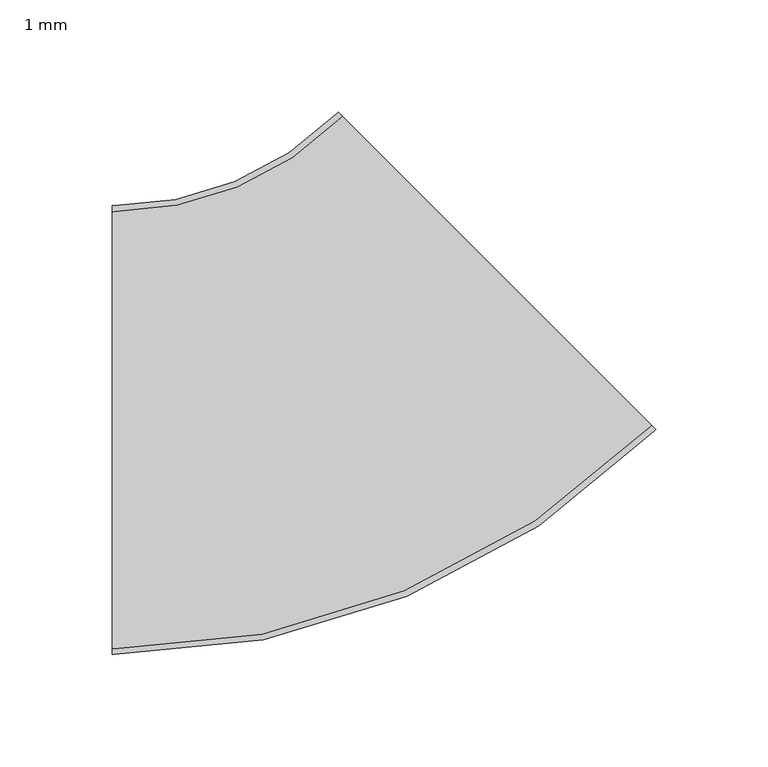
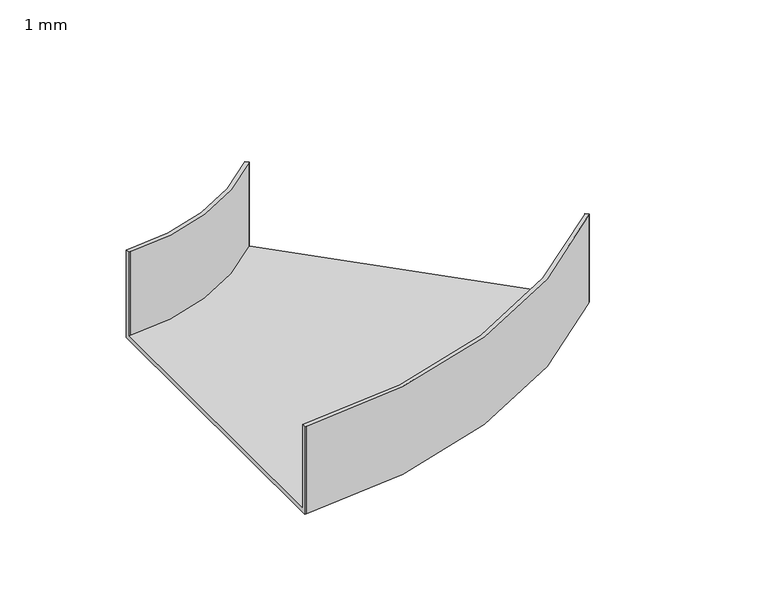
"""IFC4 building model written with IfcOpenShell, lengths in millimetres: cable carrier fitting geometry, BAKS_Kolano_koryta E90 (R140) : 1 mm."""

from ifc_helpers import new_model, si_unit, frame, origin, place, context, project, spatial, polyline, circle_curve, source, transform, mapped, element, save
from ifc_brep_helpers import plane_surface, cylinder_surface, revolved_surface, advanced_brep


def cable_carrier_fitting_1_mm_e192c5dd(model_context):
    return source(origin(), model_context, "Body", "AdvancedBrep", [
        advanced_brep(
        [(-100.411255, -100.0, -30.0), (-100.411255, -100.0, 30.0), (-100.411255, -97.46, 30.0), (-100.411255, -97.46, -27.46), (-100.411255, 97.46, -27.46), (-100.411255, 97.46, 30.0), (-100.411255, 100.0, 30.0), (-100.411255, 100.0, -30.0), (141.7121574, 0.2908012, -30.0), (0.2908012, 141.7121574, -30.0), (0.2908012, 141.7121574, 30.0), (2.0868524, 139.9161062, 30.0), (2.0868524, 139.9161062, -27.46), (139.9161062, 2.0868524, -27.46), (139.9161062, 2.0868524, 30.0), (141.7121574, 0.2908012, 30.0), (-99.411255, -100.0, -30.0), (-99.411255, -100.0, 30.0), (141.0050506, -0.4163056, 30.0), (139.2089994, 1.3797456, 30.0), (-99.411255, -97.46, 30.0), (-99.411255, -97.46, -27.46), (139.2089994, 1.3797456, -27.46), (1.3797456, 139.2089994, -27.46), (-99.411255, 97.46, -27.46), (-99.411255, 97.46, 30.0), (1.3797456, 139.2089994, 30.0), (-0.4163056, 141.0050506, 30.0), (-99.411255, 100.0, 30.0), (-99.411255, 100.0, -30.0), (-0.4163056, 141.0050506, -30.0), (141.0050506, -0.4163056, -30.0)],
        [
            (0, 1),
            (1, 2),
            (2, 3),
            (3, 4),
            (4, 5),
            (5, 6),
            (6, 7),
            (7, 0),
            (8, 9),
            (9, 10),
            (10, 11),
            (11, 12),
            (12, 13),
            (13, 14),
            (14, 15),
            (15, 8),
            (0, 16),
            (16, 17),
            (17, 1),
            (17, 18, circle_curve(frame((-99.411255, 240.0, 30.0), z_axis=(0.0, 0.0, 1.0), x_axis=(0.0, -1.0, 0.0)), 340.0)),
            (18, 15),
            (14, 19),
            (19, 20, circle_curve(frame((-99.411255, 240.0, 30.0), z_axis=(0.0, 0.0, -1.0), x_axis=(0.0, -1.0, 0.0)), 337.46)),
            (20, 2),
            (20, 21),
            (21, 3),
            (21, 22, circle_curve(frame((-99.411255, 240.0, -27.46), z_axis=(0.0, 0.0, 1.0), x_axis=(0.0, -1.0, 0.0)), 337.46)),
            (22, 13),
            (12, 23),
            (23, 24, circle_curve(frame((-99.411255, 240.0, -27.46), z_axis=(0.0, 0.0, -1.0), x_axis=(0.0, -1.0, 0.0)), 142.54)),
            (24, 4),
            (24, 25),
            (25, 5),
            (25, 26, circle_curve(frame((-99.411255, 240.0, 30.0), z_axis=(0.0, 0.0, 1.0), x_axis=(0.0, -1.0, 0.0)), 142.54)),
            (26, 11),
            (10, 27),
            (27, 28, circle_curve(frame((-99.411255, 240.0, 30.0), z_axis=(0.0, 0.0, -1.0), x_axis=(0.0, -1.0, 0.0)), 140.0)),
            (28, 6),
            (28, 29),
            (29, 7),
            (29, 30, circle_curve(frame((-99.411255, 240.0, -30.0), z_axis=(0.0, 0.0, 1.0), x_axis=(0.0, -1.0, 0.0)), 140.0)),
            (30, 9),
            (8, 31),
            (31, 16, circle_curve(frame((-99.411255, 240.0, -30.0), z_axis=(0.0, 0.0, -1.0), x_axis=(0.0, -1.0, 0.0)), 340.0)),
            (31, 18),
            (19, 22),
            (23, 26),
            (27, 30),
        ],
        [
            plane_surface(frame((-100.411255, 0.0, 0.0), z_axis=(-1.0, -4.906741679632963e-12, 0.0), x_axis=(0.0, 0.0, 1.0))),
            plane_surface(frame((71.0014793, 71.0014793, 0.0), z_axis=(0.7071067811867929, 0.7071067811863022, 0.0), x_axis=(0.0, 0.0, 1.0))),
            plane_surface(frame((-100.411255, -100.0, -30.0), z_axis=(4.906741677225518e-12, -1.0, 0.0), x_axis=(1.0, 4.906741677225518e-12, 0.0))),
            plane_surface(frame((-100.411255, -100.0, 30.0), z_axis=(0.0, 0.0, 1.0), x_axis=(1.0, 4.906741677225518e-12, 0.0))),
            plane_surface(frame((-100.411255, -97.46, 30.0), z_axis=(-4.889821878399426e-12, 1.0, 0.0), x_axis=(1.0, 4.889821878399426e-12, 0.0))),
            plane_surface(frame((-100.411255, -97.46, -27.46), z_axis=(0.0, 0.0, 1.0), x_axis=(1.0, 4.9067416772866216e-12, 0.0))),
            plane_surface(frame((-100.411255, 97.46, -27.46), z_axis=(4.906741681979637e-12, -1.0, 0.0), x_axis=(1.0, 4.906741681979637e-12, 0.0))),
            plane_surface(frame((-100.411255, 97.46, 30.0), z_axis=(0.0, 0.0, 1.0), x_axis=(1.0, 4.906741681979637e-12, 0.0))),
            plane_surface(frame((-100.411255, 100.0, 30.0), z_axis=(-4.90674168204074e-12, 1.0, 0.0), x_axis=(1.0, 4.90674168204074e-12, 0.0))),
            plane_surface(frame((-100.411255, 100.0, -30.0), z_axis=(0.0, 0.0, -1.0), x_axis=(1.0, 4.90674168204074e-12, 0.0))),
            cylinder_surface(frame((-99.411255, 240.0, 0.0), z_axis=(0.0, 0.0, 1.0), x_axis=(0.0, -1.0, 0.0)), 340.0),
            revolved_surface(polyline([(-99.411255, -97.45999999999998, 30.0), (-99.411255, -97.45999999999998, -27.46)]), (-99.411255, 240.0, 0.0), (0.0, 0.0, 1.0)),
            cylinder_surface(frame((-99.411255, 240.0, 0.0), z_axis=(0.0, 0.0, 1.0), x_axis=(0.0, -1.0, 0.0)), 142.54),
            revolved_surface(polyline([(-99.411255, 100.0, 30.0), (-99.411255, 100.0, -30.0)]), (-99.411255, 240.0, 0.0), (0.0, 0.0, 1.0)),
            plane_surface(frame((141.0050506, -0.4163056, -30.0), z_axis=(0.7071067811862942, -0.7071067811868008, 0.0), x_axis=(0.7071067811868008, 0.7071067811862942, 0.0))),
            plane_surface(frame((139.2089994, 1.3797456, 30.0), z_axis=(-0.7071067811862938, 0.7071067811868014, 0.0), x_axis=(0.7071067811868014, 0.7071067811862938, 0.0))),
            plane_surface(frame((1.3797456, 139.2089994, -27.46), z_axis=(0.7071067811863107, -0.7071067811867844, 0.0), x_axis=(0.7071067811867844, 0.7071067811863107, 0.0))),
            plane_surface(frame((-0.4163056, 141.0050506, 30.0), z_axis=(-0.7071067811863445, 0.7071067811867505, 0.0), x_axis=(0.7071067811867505, 0.7071067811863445, 0.0))),
        ],
        [
            (0, [[1, 2, 3, 4, 5, 6, 7, 8]]),
            (1, [[9, 10, 11, 12, 13, 14, 15, 16]]),
            (2, [[-1, 17, 18, 19]]),
            (3, [[-2, -19, 20, 21, -15, 22, 23, 24]]),
            (4, [[-3, -24, 25, 26]]),
            (5, [[-4, -26, 27, 28, -13, 29, 30, 31]]),
            (6, [[-5, -31, 32, 33]]),
            (7, [[-6, -33, 34, 35, -11, 36, 37, 38]]),
            (8, [[-7, -38, 39, 40]]),
            (9, [[-8, -40, 41, 42, -9, 43, 44, -17]]),
            (10, [[-20, -18, -44, 45]]),
            (11, [[-27, -25, -23, 46]]),
            (12, [[-34, -32, -30, 47]]),
            (13, [[-41, -39, -37, 48]]),
            (14, [[-45, -43, -16, -21]]),
            (15, [[-46, -22, -14, -28]]),
            (16, [[-47, -29, -12, -35]]),
            (17, [[-48, -36, -10, -42]]),
        ],
    ),
    ])


if __name__ == "__main__":
    model = new_model("IFC4")
    model_context = context("Model", 3, world=origin())
    ifc_project = project(units=[si_unit("LENGTHUNIT", "METRE", prefix="MILLI")], contexts=[model_context])
    site = spatial("IfcSite", under=ifc_project)
    building = spatial("IfcBuilding", under=site)
    placement = place(None, origin())
    cable_carrier_fitting_1_mm_shape = cable_carrier_fitting_1_mm_e192c5dd(model_context)
    element("IfcCableCarrierFitting", 1, ObjectType="BAKS_Kolano_koryta E90 (R140) : 1 mm", at=placement, inside=building, context=model_context, shape_type="MappedRepresentation", body=[
        mapped(cable_carrier_fitting_1_mm_shape, transform((0.0, 0.0, 0.0), x_axis=(1.0, 0.0, 0.0), y_axis=(0.0, 1.0, 0.0), z_axis=(0.0, 0.0, 1.0))),
    ])
    save(model, "model.ifc")
